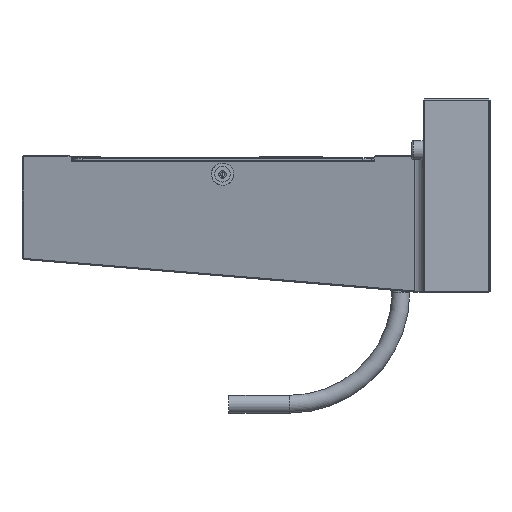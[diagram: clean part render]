
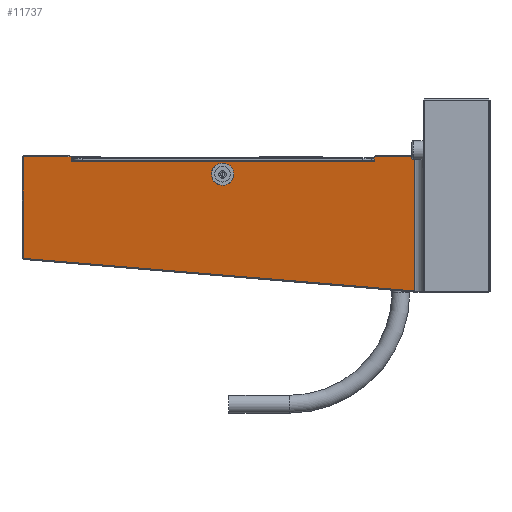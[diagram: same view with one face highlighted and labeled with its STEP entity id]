
A CAD part, left-side view. The second image highlights one B-rep face of the part: STEP entity #11737.
In plain terms, the highlighted planar face has unit normal (-0.976, 0.217, 0).
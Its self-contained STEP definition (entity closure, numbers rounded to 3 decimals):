
#153 = CARTESIAN_POINT ( 'NONE',  ( -147.591, -29.109, 264.45 ) ) ;
#822 =( BOUNDED_CURVE ( )  B_SPLINE_CURVE ( 3, ( #7041, #15835, #9248, #13547 ),
 .UNSPECIFIED., .F., .F. ) 
 B_SPLINE_CURVE_WITH_KNOTS ( ( 4, 4 ),
 ( 0., 3.142 ),
 .UNSPECIFIED. ) 
 CURVE ( )  GEOMETRIC_REPRESENTATION_ITEM ( )  RATIONAL_B_SPLINE_CURVE ( ( 1., 0.333, 0.333, 1. ) ) 
 REPRESENTATION_ITEM ( '' )  );
#1310 = EDGE_CURVE ( 'NONE', #4529, #18887, #10066, .T. ) ;
#2345 = EDGE_CURVE ( 'NONE', #14610, #25892, #26783, .T. ) ;
#2668 = CARTESIAN_POINT ( 'NONE',  ( -163.813, -102.109, 262.75 ) ) ;
#3781 = CARTESIAN_POINT ( 'NONE',  ( -149.813, -39.109, 254.45 ) ) ;
#4010 = VERTEX_POINT ( 'NONE', #28270 ) ;
#4429 = DIRECTION ( 'NONE',  ( -0.976, 0.217, 0. ) ) ;
#4435 = CARTESIAN_POINT ( 'NONE',  ( -167.832, -120.194, 202.078 ) ) ;
#4485 = VECTOR ( 'NONE', #10481, 1000. ) ;
#4529 = VERTEX_POINT ( 'NONE', #17991 ) ;
#4607 = CARTESIAN_POINT ( 'NONE',  ( -163.813, -102.109, 262.25 ) ) ;
#4724 = ORIENTED_EDGE ( 'NONE', *, *, #17454, .T. ) ;
#4883 = VERTEX_POINT ( 'NONE', #26954 ) ;
#4953 = DIRECTION ( 'NONE',  ( 0.217, 0.976, 0. ) ) ;
#5401 = DIRECTION ( 'NONE',  ( 0.217, 0.976, 0. ) ) ;
#5486 = LINE ( 'NONE', #25030, #12318 ) ;
#5625 = LINE ( 'NONE', #18489, #5952 ) ;
#5952 = VECTOR ( 'NONE', #5401, 1000. ) ;
#6030 = CARTESIAN_POINT ( 'NONE',  ( -128.845, 55.248, 262.25 ) ) ;
#6256 = DIRECTION ( 'NONE',  ( -0.217, -0.976, 0. ) ) ;
#6534 = EDGE_CURVE ( 'NONE', #25892, #24091, #20726, .T. ) ;
#6578 = CARTESIAN_POINT ( 'NONE',  ( -128.845, 55.248, 216.25 ) ) ;
#7006 = ORIENTED_EDGE ( 'NONE', *, *, #2345, .T. ) ;
#7041 = CARTESIAN_POINT ( 'NONE',  ( -147.591, -29.109, 254.45 ) ) ;
#7382 = LINE ( 'NONE', #15738, #17975 ) ;
#7648 = CARTESIAN_POINT ( 'NONE',  ( -147.591, -29.109, 254.45 ) ) ;
#8313 = LINE ( 'NONE', #27226, #9358 ) ;
#8866 = DIRECTION ( 'NONE',  ( 0., 0., -1. ) ) ;
#8992 = VECTOR ( 'NONE', #17905, 1000. ) ;
#9248 = CARTESIAN_POINT ( 'NONE',  ( -149.813, -39.109, 244.45 ) ) ;
#9358 = VECTOR ( 'NONE', #14828, 1000. ) ;
#9384 = VECTOR ( 'NONE', #8866, 1000. ) ;
#9567 = EDGE_CURVE ( 'NONE', #4883, #14610, #7382, .T. ) ;
#10066 =( BOUNDED_CURVE ( )  B_SPLINE_CURVE ( 3, ( #3781, #26383, #153, #28306 ),
 .UNSPECIFIED., .F., .F. ) 
 B_SPLINE_CURVE_WITH_KNOTS ( ( 4, 4 ),
 ( 3.142, 6.283 ),
 .UNSPECIFIED. ) 
 CURVE ( )  GEOMETRIC_REPRESENTATION_ITEM ( )  RATIONAL_B_SPLINE_CURVE ( ( 1., 0.333, 0.333, 1. ) ) 
 REPRESENTATION_ITEM ( '' )  );
#10481 = DIRECTION ( 'NONE',  ( 0., 0., -1. ) ) ;
#10588 = LINE ( 'NONE', #23312, #4485 ) ;
#10805 = PLANE ( 'NONE',  #22161 ) ;
#10981 = ORIENTED_EDGE ( 'NONE', *, *, #11957, .T. ) ;
#11257 = EDGE_CURVE ( 'NONE', #21727, #21396, #20291, .T. ) ;
#11275 = CARTESIAN_POINT ( 'NONE',  ( -167.841, -120.234, 202.075 ) ) ;
#11687 = FACE_OUTER_BOUND ( 'NONE', #27514, .T. ) ;
#11737 = ADVANCED_FACE ( 'NONE', ( #27445, #11687 ), #10805, .T. ) ;
#11957 = EDGE_CURVE ( 'NONE', #24091, #25032, #8313, .T. ) ;
#12318 = VECTOR ( 'NONE', #14229, 1000. ) ;
#13001 = CARTESIAN_POINT ( 'NONE',  ( -128.702, 55.891, 34.859 ) ) ;
#13547 = CARTESIAN_POINT ( 'NONE',  ( -149.813, -39.109, 254.45 ) ) ;
#14229 = DIRECTION ( 'NONE',  ( 0.217, 0.976, 0. ) ) ;
#14610 = VERTEX_POINT ( 'NONE', #6030 ) ;
#14828 = DIRECTION ( 'NONE',  ( 0., 0., 1. ) ) ;
#15738 = CARTESIAN_POINT ( 'NONE',  ( -128.845, 55.248, 262.25 ) ) ;
#15835 = CARTESIAN_POINT ( 'NONE',  ( -147.591, -29.109, 244.45 ) ) ;
#16270 = VECTOR ( 'NONE', #18449, 1000. ) ;
#16872 = EDGE_CURVE ( 'NONE', #18887, #4529, #822, .T. ) ;
#17370 = EDGE_LOOP ( 'NONE', ( #19036, #17956 ) ) ;
#17454 = EDGE_CURVE ( 'NONE', #25032, #21727, #5625, .T. ) ;
#17905 = DIRECTION ( 'NONE',  ( 0., 0., -1. ) ) ;
#17956 = ORIENTED_EDGE ( 'NONE', *, *, #1310, .F. ) ;
#17975 = VECTOR ( 'NONE', #4953, 1000. ) ;
#17988 = ORIENTED_EDGE ( 'NONE', *, *, #19372, .T. ) ;
#17991 = CARTESIAN_POINT ( 'NONE',  ( -149.813, -39.109, 254.45 ) ) ;
#18449 = DIRECTION ( 'NONE',  ( -0.216, -0.973, -0.081 ) ) ;
#18489 = CARTESIAN_POINT ( 'NONE',  ( -128.702, 55.891, 262.25 ) ) ;
#18877 = ORIENTED_EDGE ( 'NONE', *, *, #19448, .F. ) ;
#18887 = VERTEX_POINT ( 'NONE', #7648 ) ;
#18929 = CARTESIAN_POINT ( 'NONE',  ( -163.813, -102.109, 260.25 ) ) ;
#19036 = ORIENTED_EDGE ( 'NONE', *, *, #16872, .F. ) ;
#19372 = EDGE_CURVE ( 'NONE', #21396, #4010, #5486, .T. ) ;
#19448 = EDGE_CURVE ( 'NONE', #4883, #4010, #10588, .T. ) ;
#19725 = ORIENTED_EDGE ( 'NONE', *, *, #9567, .T. ) ;
#19733 = CARTESIAN_POINT ( 'NONE',  ( -128.845, 55.248, 216.698 ) ) ;
#20291 = LINE ( 'NONE', #2668, #8992 ) ;
#20607 = CARTESIAN_POINT ( 'NONE',  ( -167.832, -120.194, 262.25 ) ) ;
#20726 = LINE ( 'NONE', #11275, #16270 ) ;
#21396 = VERTEX_POINT ( 'NONE', #18929 ) ;
#21727 = VERTEX_POINT ( 'NONE', #4607 ) ;
#21747 = ORIENTED_EDGE ( 'NONE', *, *, #11257, .T. ) ;
#22161 = AXIS2_PLACEMENT_3D ( 'NONE', #13001, #4429, #6256 ) ;
#23312 = CARTESIAN_POINT ( 'NONE',  ( -133.591, 33.891, 262.75 ) ) ;
#24091 = VERTEX_POINT ( 'NONE', #4435 ) ;
#24323 = ORIENTED_EDGE ( 'NONE', *, *, #6534, .T. ) ;
#25030 = CARTESIAN_POINT ( 'NONE',  ( -128.702, 55.891, 260.25 ) ) ;
#25032 = VERTEX_POINT ( 'NONE', #20607 ) ;
#25892 = VERTEX_POINT ( 'NONE', #19733 ) ;
#26383 = CARTESIAN_POINT ( 'NONE',  ( -149.813, -39.109, 264.45 ) ) ;
#26783 = LINE ( 'NONE', #6578, #9384 ) ;
#26954 = CARTESIAN_POINT ( 'NONE',  ( -133.591, 33.891, 262.25 ) ) ;
#27226 = CARTESIAN_POINT ( 'NONE',  ( -167.832, -120.194, 262.75 ) ) ;
#27445 = FACE_BOUND ( 'NONE', #17370, .T. ) ;
#27514 = EDGE_LOOP ( 'NONE', ( #10981, #4724, #21747, #17988, #18877, #19725, #7006, #24323 ) ) ;
#28270 = CARTESIAN_POINT ( 'NONE',  ( -133.591, 33.891, 260.25 ) ) ;
#28306 = CARTESIAN_POINT ( 'NONE',  ( -147.591, -29.109, 254.45 ) ) ;
